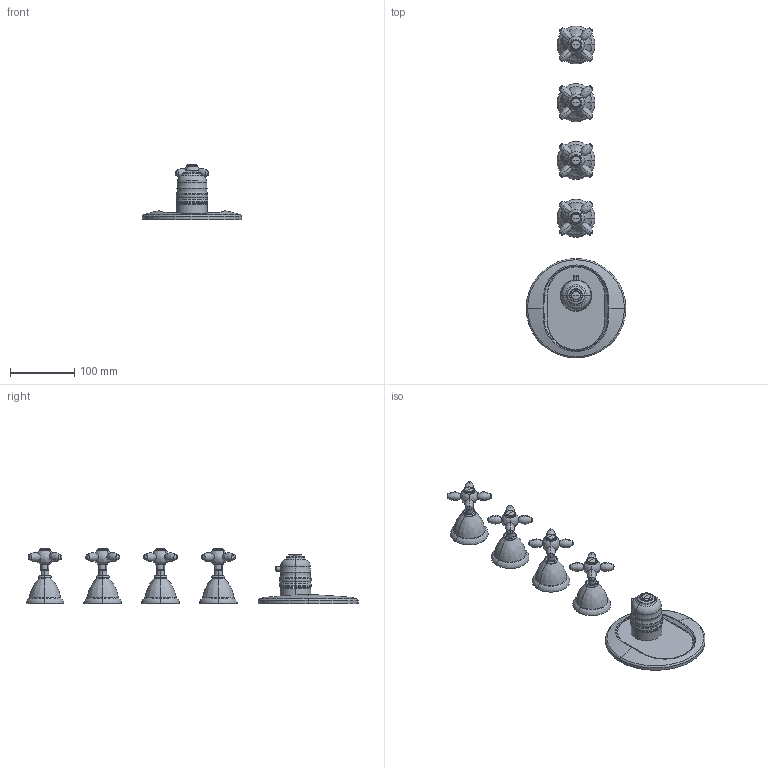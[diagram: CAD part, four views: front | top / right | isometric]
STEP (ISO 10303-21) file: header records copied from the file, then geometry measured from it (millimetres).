
FILE_DESCRIPTION((''),'2;1');
FILE_NAME('F5043X4_FILE_3D','2013-06-12T',('ivanv'),(''),'PRO/ENGINEER BY PARAMETRIC TECHNOLOGY CORPORATION, 2012130','PRO/ENGINEER BY PARAMETRIC TECHNOLOGY CORPORATION, 2012130','');
FILE_SCHEMA(('CONFIG_CONTROL_DESIGN'));
Products named in the file (1): F5043X4_FILE_3D
Bounding box: 155 x 517 x 85.85 mm (x, y, z)
Volume: 519365.7 mm3; surface area: 133458.8 mm2
Topology: 6 solids, 11 shells, 1607 faces, 4830 edges, 3087 vertices
Faces by surface type: plane 951, cylinder 245, torus 191, cone 126, revolution 64, bspline 18, sphere 12
Entity records: 60196 total; most frequent: CARTESIAN_POINT 17945, ORIENTED_EDGE 9576, DIRECTION 8084, EDGE_CURVE 4788, VERTEX_POINT 3087, AXIS2_PLACEMENT_3D 2868, VECTOR 2284, LINE 2284
